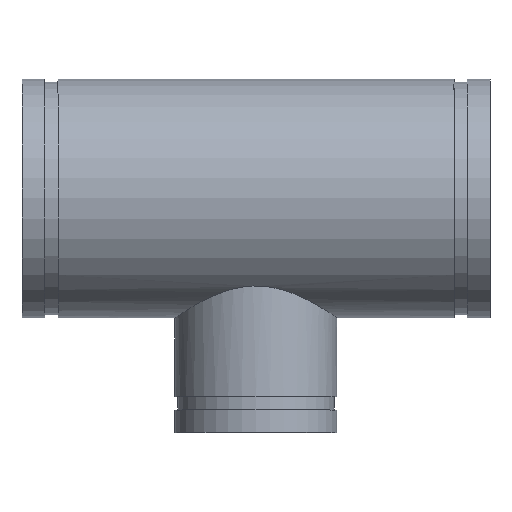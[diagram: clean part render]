
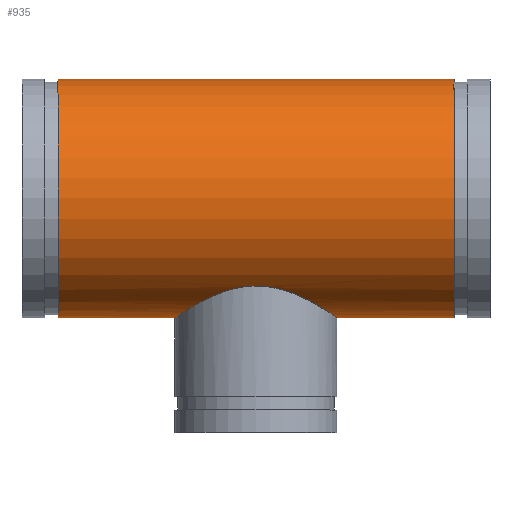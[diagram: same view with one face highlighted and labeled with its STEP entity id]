
A CAD part, top view. The second image highlights one B-rep face of the part: STEP entity #935.
In plain terms, the highlighted cylindrical face has radius 84.138 mm (diameter 168.275 mm), a full revolution.
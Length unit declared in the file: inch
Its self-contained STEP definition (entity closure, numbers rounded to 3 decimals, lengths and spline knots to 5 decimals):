
#61=FACE_BOUND('',#222,.T.);
#67=B_SPLINE_CURVE_WITH_KNOTS('',3,(#1807,#1808,#1809,#1810,#1811,#1812,
#1813,#1814,#1815,#1816,#1817,#1818,#1819,#1820,#1821,#1822,#1823,#1824),
 .UNSPECIFIED.,.F.,.F.,(4,2,2,2,2,2,2,2,4),(0.,1.13036,2.26072,
3.39108,4.52144,5.63808,6.75471,7.87135,
8.98799),.UNSPECIFIED.);
#68=B_SPLINE_CURVE_WITH_KNOTS('',3,(#1825,#1826,#1827,#1828,#1829,#1830,
#1831,#1832,#1833,#1834,#1835,#1836,#1837,#1838,#1839,#1840,#1841,#1842,
#1843,#1844,#1845,#1846,#1847,#1848,#1849,#1850,#1851,#1852,#1853,#1854,
#1855,#1856,#1857,#1858,#1859,#1860,#1861,#1862,#1863,#1864,#1865,#1866,
#1867,#1868,#1869,#1870,#1871,#1872,#1873,#1874),.UNSPECIFIED.,.F.,.F.,
(4,2,2,2,2,2,2,2,2,2,2,2,2,2,2,2,2,2,2,2,2,2,2,2,4),(8.98799,10.10462,
11.22126,12.3379,13.45453,14.58489,15.71525,
16.84561,17.97597,19.10633,20.2367,21.36706,
22.49742,23.61405,24.73069,25.84733,26.96396,
28.0806,29.19723,30.31387,31.43051,32.56087,
33.69123,34.82159,35.95195),.UNSPECIFIED.);
#81=CYLINDRICAL_SURFACE('',#1104,3.3125);
#103=LINE('',#1804,#125);
#125=VECTOR('',#1432,3.3125);
#171=FACE_OUTER_BOUND('',#221,.T.);
#221=EDGE_LOOP('',(#814,#815,#816,#817));
#222=EDGE_LOOP('',(#818,#819));
#326=CIRCLE('',#1087,3.3125);
#337=CIRCLE('',#1103,3.3125);
#424=VERTEX_POINT('',#1772);
#435=VERTEX_POINT('',#1801);
#436=VERTEX_POINT('',#1805);
#437=VERTEX_POINT('',#1806);
#552=EDGE_CURVE('',#424,#424,#326,.T.);
#565=EDGE_CURVE('',#435,#435,#337,.T.);
#566=EDGE_CURVE('',#435,#424,#103,.T.);
#567=EDGE_CURVE('',#436,#437,#67,.T.);
#568=EDGE_CURVE('',#437,#436,#68,.T.);
#814=ORIENTED_EDGE('',*,*,#565,.T.);
#815=ORIENTED_EDGE('',*,*,#566,.T.);
#816=ORIENTED_EDGE('',*,*,#552,.T.);
#817=ORIENTED_EDGE('',*,*,#566,.F.);
#818=ORIENTED_EDGE('',*,*,#567,.T.);
#819=ORIENTED_EDGE('',*,*,#568,.T.);
#935=ADVANCED_FACE('',(#171,#61),#81,.T.);
#1087=AXIS2_PLACEMENT_3D('',#1773,#1394,#1395);
#1103=AXIS2_PLACEMENT_3D('',#1802,#1428,#1429);
#1104=AXIS2_PLACEMENT_3D('',#1803,#1430,#1431);
#1394=DIRECTION('center_axis',(-1.,0.,0.));
#1395=DIRECTION('ref_axis',(0.,-1.,0.));
#1428=DIRECTION('center_axis',(1.,0.,0.));
#1429=DIRECTION('ref_axis',(0.,-1.,0.));
#1430=DIRECTION('center_axis',(-1.,0.,0.));
#1431=DIRECTION('ref_axis',(0.,-1.,0.));
#1432=DIRECTION('',(1.,0.,0.));
#1772=CARTESIAN_POINT('',(5.5,3.3125,0.));
#1773=CARTESIAN_POINT('Origin',(5.5,0.,0.));
#1801=CARTESIAN_POINT('',(-5.5,3.3125,0.));
#1802=CARTESIAN_POINT('Origin',(-5.5,0.,0.));
#1803=CARTESIAN_POINT('Origin',(6.5,0.,0.));
#1804=CARTESIAN_POINT('',(6.5,3.3125,0.));
#1805=CARTESIAN_POINT('',(0.,-2.43108,-2.25));
#1806=CARTESIAN_POINT('',(-2.25,-3.3125,0.));
#1807=CARTESIAN_POINT('Ctrl Pts',(0.,-2.43108,-2.25));
#1808=CARTESIAN_POINT('Ctrl Pts',(-0.14834,-2.43108,-2.25));
#1809=CARTESIAN_POINT('Ctrl Pts',(-0.29879,-2.44508,
-2.23514));
#1810=CARTESIAN_POINT('Ctrl Pts',(-0.59355,-2.49829,-2.1755));
#1811=CARTESIAN_POINT('Ctrl Pts',(-0.7379,-2.53732,
-2.13077));
#1812=CARTESIAN_POINT('Ctrl Pts',(-1.01221,-2.63022,-2.01497));
#1813=CARTESIAN_POINT('Ctrl Pts',(-1.14247,-2.68403,-1.9438));
#1814=CARTESIAN_POINT('Ctrl Pts',(-1.38295,-2.79488,-1.78074));
#1815=CARTESIAN_POINT('Ctrl Pts',(-1.49317,-2.85185,-1.68881));
#1816=CARTESIAN_POINT('Ctrl Pts',(-1.68762,-2.95832,-1.49436));
#1817=CARTESIAN_POINT('Ctrl Pts',(-1.77933,-3.01197,-1.38478));
#1818=CARTESIAN_POINT('Ctrl Pts',(-1.94278,-3.11132,-1.14423));
#1819=CARTESIAN_POINT('Ctrl Pts',(-2.01452,-3.15697,-1.01324));
#1820=CARTESIAN_POINT('Ctrl Pts',(-2.13107,-3.23259,-0.73721));
#1821=CARTESIAN_POINT('Ctrl Pts',(-2.17598,-3.2626,-0.59187));
#1822=CARTESIAN_POINT('Ctrl Pts',(-2.23545,-3.30256,-0.29654));
#1823=CARTESIAN_POINT('Ctrl Pts',(-2.25,-3.3125,-0.14654));
#1824=CARTESIAN_POINT('Ctrl Pts',(-2.25,-3.3125,0.));
#1825=CARTESIAN_POINT('Ctrl Pts',(-2.25,-3.3125,0.));
#1826=CARTESIAN_POINT('Ctrl Pts',(-2.25,-3.3125,0.14654));
#1827=CARTESIAN_POINT('Ctrl Pts',(-2.23545,-3.30256,0.29654));
#1828=CARTESIAN_POINT('Ctrl Pts',(-2.17598,-3.2626,0.59187));
#1829=CARTESIAN_POINT('Ctrl Pts',(-2.13107,-3.23259,0.73721));
#1830=CARTESIAN_POINT('Ctrl Pts',(-2.01452,-3.15697,1.01324));
#1831=CARTESIAN_POINT('Ctrl Pts',(-1.94278,-3.11132,1.14423));
#1832=CARTESIAN_POINT('Ctrl Pts',(-1.77933,-3.01197,1.38478));
#1833=CARTESIAN_POINT('Ctrl Pts',(-1.68762,-2.95832,1.49436));
#1834=CARTESIAN_POINT('Ctrl Pts',(-1.49317,-2.85185,1.68881));
#1835=CARTESIAN_POINT('Ctrl Pts',(-1.38295,-2.79488,1.78074));
#1836=CARTESIAN_POINT('Ctrl Pts',(-1.14247,-2.68403,1.9438));
#1837=CARTESIAN_POINT('Ctrl Pts',(-1.01221,-2.63022,2.01497));
#1838=CARTESIAN_POINT('Ctrl Pts',(-0.7379,-2.53732,
2.13077));
#1839=CARTESIAN_POINT('Ctrl Pts',(-0.59355,-2.49829,
2.1755));
#1840=CARTESIAN_POINT('Ctrl Pts',(-0.29879,-2.44508,
2.23514));
#1841=CARTESIAN_POINT('Ctrl Pts',(-0.14834,-2.43108,
2.25));
#1842=CARTESIAN_POINT('Ctrl Pts',(0.14834,-2.43108,2.25));
#1843=CARTESIAN_POINT('Ctrl Pts',(0.29879,-2.44508,2.23514));
#1844=CARTESIAN_POINT('Ctrl Pts',(0.59355,-2.49829,2.1755));
#1845=CARTESIAN_POINT('Ctrl Pts',(0.7379,-2.53732,2.13077));
#1846=CARTESIAN_POINT('Ctrl Pts',(1.01221,-2.63022,2.01497));
#1847=CARTESIAN_POINT('Ctrl Pts',(1.14247,-2.68403,1.9438));
#1848=CARTESIAN_POINT('Ctrl Pts',(1.38295,-2.79488,1.78074));
#1849=CARTESIAN_POINT('Ctrl Pts',(1.49317,-2.85185,1.68881));
#1850=CARTESIAN_POINT('Ctrl Pts',(1.68762,-2.95832,1.49436));
#1851=CARTESIAN_POINT('Ctrl Pts',(1.77933,-3.01197,1.38478));
#1852=CARTESIAN_POINT('Ctrl Pts',(1.94278,-3.11132,1.14423));
#1853=CARTESIAN_POINT('Ctrl Pts',(2.01452,-3.15697,1.01324));
#1854=CARTESIAN_POINT('Ctrl Pts',(2.13107,-3.23259,0.73721));
#1855=CARTESIAN_POINT('Ctrl Pts',(2.17598,-3.2626,0.59187));
#1856=CARTESIAN_POINT('Ctrl Pts',(2.23545,-3.30256,0.29654));
#1857=CARTESIAN_POINT('Ctrl Pts',(2.25,-3.3125,0.14654));
#1858=CARTESIAN_POINT('Ctrl Pts',(2.25,-3.3125,-0.14654));
#1859=CARTESIAN_POINT('Ctrl Pts',(2.23545,-3.30256,-0.29654));
#1860=CARTESIAN_POINT('Ctrl Pts',(2.17598,-3.2626,-0.59187));
#1861=CARTESIAN_POINT('Ctrl Pts',(2.13107,-3.23259,-0.73721));
#1862=CARTESIAN_POINT('Ctrl Pts',(2.01452,-3.15697,-1.01324));
#1863=CARTESIAN_POINT('Ctrl Pts',(1.94278,-3.11132,-1.14423));
#1864=CARTESIAN_POINT('Ctrl Pts',(1.77933,-3.01197,-1.38478));
#1865=CARTESIAN_POINT('Ctrl Pts',(1.68762,-2.95832,-1.49436));
#1866=CARTESIAN_POINT('Ctrl Pts',(1.49317,-2.85185,-1.68881));
#1867=CARTESIAN_POINT('Ctrl Pts',(1.38295,-2.79488,-1.78074));
#1868=CARTESIAN_POINT('Ctrl Pts',(1.14247,-2.68403,-1.9438));
#1869=CARTESIAN_POINT('Ctrl Pts',(1.01221,-2.63022,-2.01497));
#1870=CARTESIAN_POINT('Ctrl Pts',(0.7379,-2.53732,-2.13077));
#1871=CARTESIAN_POINT('Ctrl Pts',(0.59355,-2.49829,-2.1755));
#1872=CARTESIAN_POINT('Ctrl Pts',(0.29879,-2.44508,-2.23514));
#1873=CARTESIAN_POINT('Ctrl Pts',(0.14834,-2.43108,-2.25));
#1874=CARTESIAN_POINT('Ctrl Pts',(0.,-2.43108,
-2.25));
